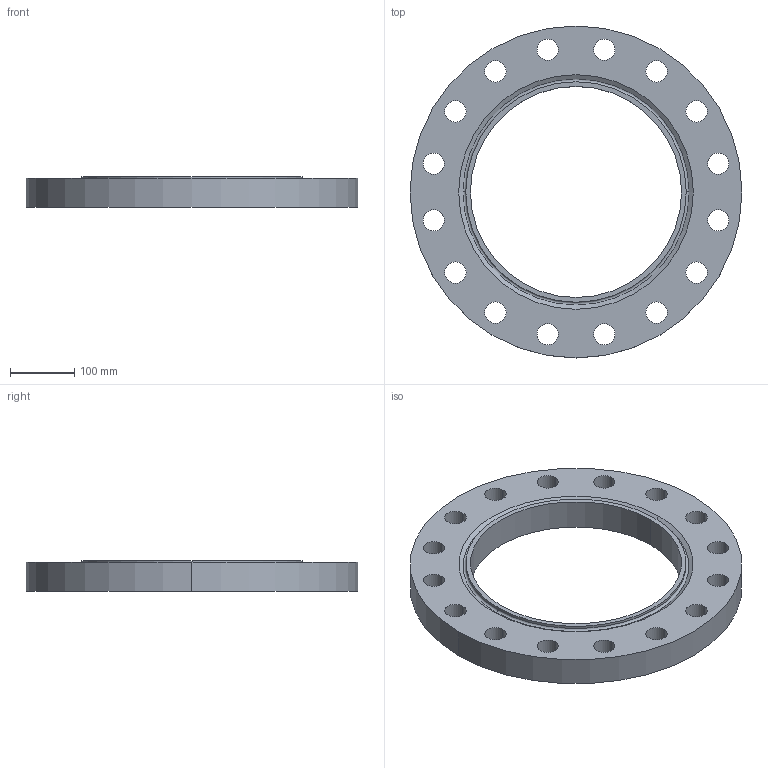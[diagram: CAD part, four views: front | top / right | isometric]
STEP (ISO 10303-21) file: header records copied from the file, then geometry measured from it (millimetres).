
FILE_DESCRIPTION (( 'STEP AP214' ), '1' );
FILE_NAME ('PN40 DN300 Type 01 - Type H Face.STEP', '2019-01-05T20:29:49', ( '' ), ( '' ), 'SwSTEP 2.0', 'SolidWorks 2019', '' );
FILE_SCHEMA (( 'AUTOMOTIVE_DESIGN' ));
Length unit declared in the file: millimetre
Products named in the file (1): PN40 DN300 Type 01 - Type H Face
Bounding box: 515 x 515 x 48 mm (x, y, z)
Volume: 5006891.5 mm3; surface area: 426791.3 mm2
Topology: 1 solids, 1 shells, 45 faces, 122 edges, 80 vertices
Faces by surface type: cylinder 38, plane 3, torus 2, cone 2
Entity records: 1568 total; most frequent: DIRECTION 296, CARTESIAN_POINT 248, ORIENTED_EDGE 244, AXIS2_PLACEMENT_3D 128, EDGE_CURVE 122, CIRCLE 82, EDGE_LOOP 80, VERTEX_POINT 80
